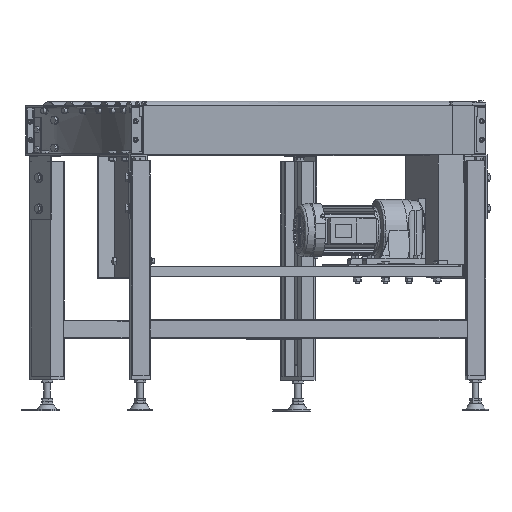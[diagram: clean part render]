
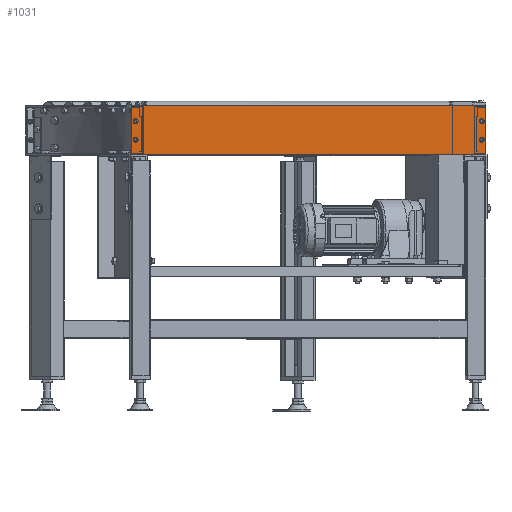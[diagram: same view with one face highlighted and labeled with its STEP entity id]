
A CAD part, top view. The second image highlights one B-rep face of the part: STEP entity #1031.
In plain terms, the highlighted planar face has unit normal (0, 0, 1).
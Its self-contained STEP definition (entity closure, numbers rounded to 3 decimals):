
#1031=ADVANCED_FACE('',(#5672,#5673,#5674,#5675,#5676),#5671,.T.);
#5671=PLANE('',#31334);
#5672=FACE_OUTER_BOUND('',#31335,.T.);
#5673=FACE_BOUND('',#31336,.T.);
#5674=FACE_BOUND('',#31337,.T.);
#5675=FACE_BOUND('',#31338,.T.);
#5676=FACE_BOUND('',#31339,.T.);
#31331=CARTESIAN_POINT('',(1740.,0.,1.6));
#31332=DIRECTION('',(0.,0.,1.));
#31333=DIRECTION('',(-1.,0.,0.));
#31334=AXIS2_PLACEMENT_3D('',#31331,#31332,#31333);
#31335=EDGE_LOOP('',(#45536,#45537,#45538,#45539));
#31336=EDGE_LOOP('',(#45540,#45541));
#31337=EDGE_LOOP('',(#45542,#45543));
#31338=EDGE_LOOP('',(#45544,#45545));
#31339=EDGE_LOOP('',(#45546,#45547));
#45536=ORIENTED_EDGE('',*,*,#58479,.F.);
#45537=ORIENTED_EDGE('',*,*,#58480,.F.);
#45538=ORIENTED_EDGE('',*,*,#58481,.F.);
#45539=ORIENTED_EDGE('',*,*,#58482,.F.);
#45540=ORIENTED_EDGE('',*,*,#58470,.F.);
#45541=ORIENTED_EDGE('',*,*,#58471,.F.);
#45542=ORIENTED_EDGE('',*,*,#58462,.F.);
#45543=ORIENTED_EDGE('',*,*,#58463,.F.);
#45544=ORIENTED_EDGE('',*,*,#58474,.F.);
#45545=ORIENTED_EDGE('',*,*,#58475,.F.);
#45546=ORIENTED_EDGE('',*,*,#58466,.F.);
#45547=ORIENTED_EDGE('',*,*,#58467,.F.);
#58462=EDGE_CURVE('',#69174,#69181,#69182,.T.);
#58463=EDGE_CURVE('',#69181,#69174,#69188,.T.);
#58466=EDGE_CURVE('',#69201,#69208,#69209,.T.);
#58467=EDGE_CURVE('',#69208,#69201,#69215,.T.);
#58470=EDGE_CURVE('',#69228,#69235,#69236,.T.);
#58471=EDGE_CURVE('',#69235,#69228,#69242,.T.);
#58474=EDGE_CURVE('',#69255,#69262,#69263,.T.);
#58475=EDGE_CURVE('',#69262,#69255,#69269,.T.);
#58479=EDGE_CURVE('',#69294,#69295,#69296,.T.);
#58480=EDGE_CURVE('',#69302,#69294,#69303,.T.);
#58481=EDGE_CURVE('',#69309,#69302,#69310,.T.);
#58482=EDGE_CURVE('',#69295,#69309,#69316,.T.);
#69174=VERTEX_POINT('',#115597);
#69181=VERTEX_POINT('',#115600);
#69182=CIRCLE('',#115604,3.5);
#69188=CIRCLE('',#115608,3.5);
#69201=VERTEX_POINT('',#115614);
#69208=VERTEX_POINT('',#115617);
#69209=CIRCLE('',#115621,3.5);
#69215=CIRCLE('',#115625,3.5);
#69228=VERTEX_POINT('',#115631);
#69235=VERTEX_POINT('',#115634);
#69236=CIRCLE('',#115638,3.5);
#69242=CIRCLE('',#115642,3.5);
#69255=VERTEX_POINT('',#115648);
#69262=VERTEX_POINT('',#115651);
#69263=CIRCLE('',#115655,3.5);
#69269=CIRCLE('',#115659,3.5);
#69294=VERTEX_POINT('',#115670);
#69295=VERTEX_POINT('',#115671);
#69296=LINE('',#115672,#115673);
#69302=VERTEX_POINT('',#115675);
#69303=LINE('',#115676,#115677);
#69309=VERTEX_POINT('',#115679);
#69310=LINE('',#115680,#115681);
#69316=LINE('',#115683,#115684);
#115597=CARTESIAN_POINT('',(1716.2,-48.5,1.6));
#115600=CARTESIAN_POINT('',(1723.2,-48.5,1.6));
#115601=CARTESIAN_POINT('',(1719.7,-48.5,1.6));
#115602=DIRECTION('',(0.,0.,1.));
#115603=DIRECTION('',(1.,0.,0.));
#115604=AXIS2_PLACEMENT_3D('',#115601,#115602,#115603);
#115605=CARTESIAN_POINT('',(1719.7,-48.5,1.6));
#115606=DIRECTION('',(0.,0.,1.));
#115607=DIRECTION('',(1.,0.,0.));
#115608=AXIS2_PLACEMENT_3D('',#115605,#115606,#115607);
#115614=CARTESIAN_POINT('',(876.8,-48.5,1.6));
#115617=CARTESIAN_POINT('',(883.8,-48.5,1.6));
#115618=CARTESIAN_POINT('',(880.3,-48.5,1.6));
#115619=DIRECTION('',(0.,0.,1.));
#115620=DIRECTION('',(1.,0.,0.));
#115621=AXIS2_PLACEMENT_3D('',#115618,#115619,#115620);
#115622=CARTESIAN_POINT('',(880.3,-48.5,1.6));
#115623=DIRECTION('',(0.,0.,1.));
#115624=DIRECTION('',(1.,0.,0.));
#115625=AXIS2_PLACEMENT_3D('',#115622,#115623,#115624);
#115631=CARTESIAN_POINT('',(1716.2,-93.5,1.6));
#115634=CARTESIAN_POINT('',(1723.2,-93.5,1.6));
#115635=CARTESIAN_POINT('',(1719.7,-93.5,1.6));
#115636=DIRECTION('',(0.,0.,1.));
#115637=DIRECTION('',(1.,0.,0.));
#115638=AXIS2_PLACEMENT_3D('',#115635,#115636,#115637);
#115639=CARTESIAN_POINT('',(1719.7,-93.5,1.6));
#115640=DIRECTION('',(0.,0.,1.));
#115641=DIRECTION('',(1.,0.,0.));
#115642=AXIS2_PLACEMENT_3D('',#115639,#115640,#115641);
#115648=CARTESIAN_POINT('',(876.8,-93.5,1.6));
#115651=CARTESIAN_POINT('',(883.8,-93.5,1.6));
#115652=CARTESIAN_POINT('',(880.3,-93.5,1.6));
#115653=DIRECTION('',(0.,0.,1.));
#115654=DIRECTION('',(1.,0.,0.));
#115655=AXIS2_PLACEMENT_3D('',#115652,#115653,#115654);
#115656=CARTESIAN_POINT('',(880.3,-93.5,1.6));
#115657=DIRECTION('',(0.,0.,1.));
#115658=DIRECTION('',(1.,0.,0.));
#115659=AXIS2_PLACEMENT_3D('',#115656,#115657,#115658);
#115670=CARTESIAN_POINT('',(1730.,-130.,1.6));
#115671=CARTESIAN_POINT('',(870.,-130.,1.6));
#115672=CARTESIAN_POINT('',(1730.,-130.,1.6));
#115673=VECTOR('',#115674,860.);
#115674=DIRECTION('',(-1.,0.,0.));
#115675=CARTESIAN_POINT('',(1730.,-10.,1.6));
#115676=CARTESIAN_POINT('',(1730.,-10.,1.6));
#115677=VECTOR('',#115678,120.);
#115678=DIRECTION('',(0.,-1.,0.));
#115679=CARTESIAN_POINT('',(870.,-10.,1.6));
#115680=CARTESIAN_POINT('',(870.,-10.,1.6));
#115681=VECTOR('',#115682,860.);
#115682=DIRECTION('',(1.,0.,0.));
#115683=CARTESIAN_POINT('',(870.,-130.,1.6));
#115684=VECTOR('',#115685,120.);
#115685=DIRECTION('',(0.,1.,0.));
